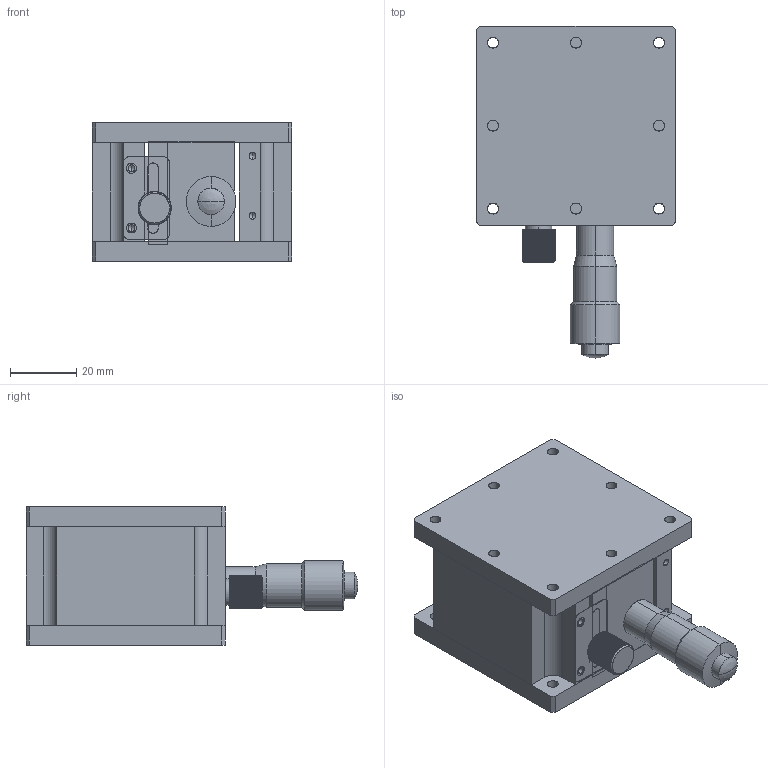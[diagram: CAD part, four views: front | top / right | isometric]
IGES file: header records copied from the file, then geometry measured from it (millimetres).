
Start section: SolidWorks IGES file using analytic representation for surfaces
Bounding box: 60 x 100 x 41.7 mm (x, y, z)
Surface area: 47098.2 mm2 (no closed solid volume)
Topology: 0 solids, 0 shells, 486 faces, 4538 edges, 4527 vertices
Faces by surface type: bspline 281, revolution 205
